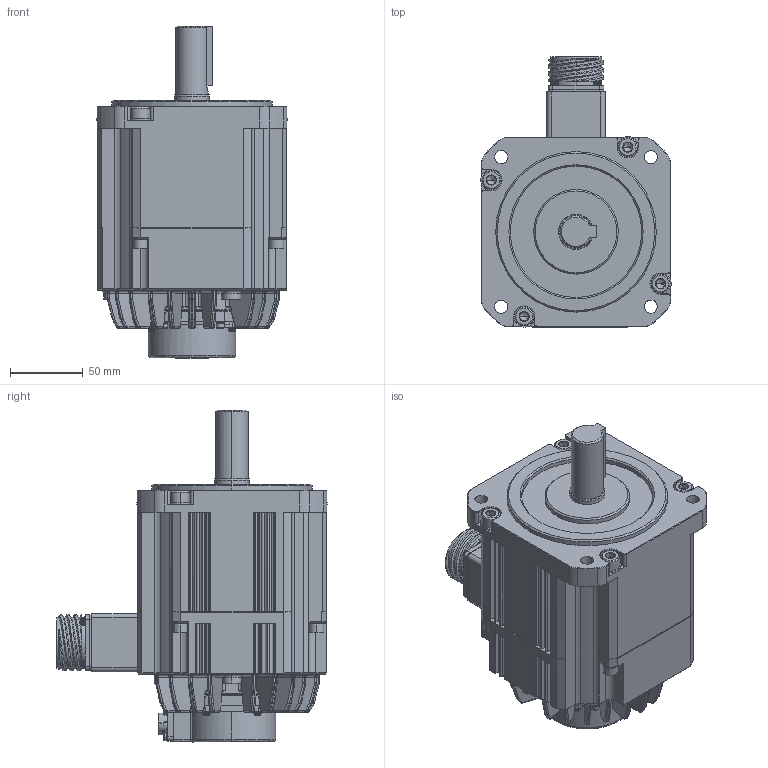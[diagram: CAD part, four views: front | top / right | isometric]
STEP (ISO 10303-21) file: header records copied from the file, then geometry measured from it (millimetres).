
FILE_DESCRIPTION (( 'STEP AP203' ), '1' );
FILE_NAME ('TSM3506N2373E721‘•”z.STEP', '2018-06-25T04:51:42', ( '' ), ( '' ), 'SwSTEP 2.0', 'SolidWorks 2017', '' );
FILE_SCHEMA (( 'CONFIG_CONTROL_DESIGN' ));
Products named in the file (2): Part22^TSM3506N2373E721装配; TSM3506N2373E721装配
Assembly tree (1 placements, depth 2):
  TSM3506N2373E721装配
    Part22^TSM3506N2373E721装配
Bounding box: 130.5 x 185.2 x 227.5 mm (x, y, z)
Volume: 2150107.5 mm3; surface area: 164827.1 mm2
Topology: 1 solids, 25 shells, 3270 faces, 8287 edges, 5059 vertices
Faces by surface type: plane 1063, cylinder 1032, bspline 804, cone 261, sphere 65, torus 45
Entity records: 160513 total; most frequent: CARTESIAN_POINT 89165, ORIENTED_EDGE 16296, DIRECTION 12578, EDGE_CURVE 8148, VERTEX_POINT 5037, AXIS2_PLACEMENT_3D 4429, LINE 3720, VECTOR 3720
